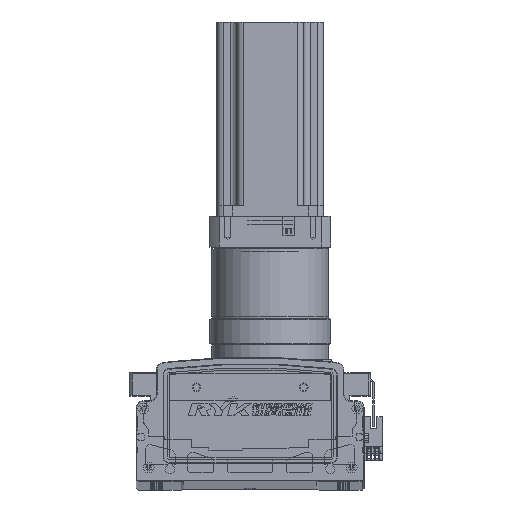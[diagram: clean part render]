
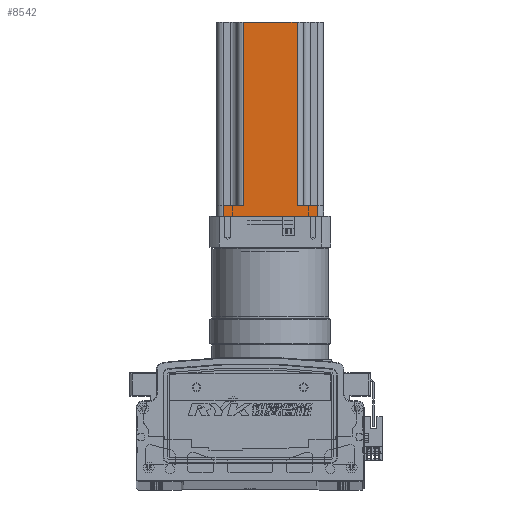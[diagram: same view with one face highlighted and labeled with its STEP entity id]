
A CAD part, top view. The second image highlights one B-rep face of the part: STEP entity #8542.
In plain terms, the highlighted planar face has unit normal (0, 0, 1) as drawn and (0, -1, 0) by its records, which use the part's own axes.
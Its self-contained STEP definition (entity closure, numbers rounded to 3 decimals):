
#8542 = ADVANCED_FACE ( 'NONE', ( #81081 ), #102049, .F. ) ;
#17299 = EDGE_LOOP ( 'NONE', ( #82838, #82874, #82886, #82844, #82961, #82892, #82914, #82920 ) ) ;
#29383 = EDGE_CURVE ( 'NONE', #80550, #80496, #62034, .T. ) ;
#29674 = EDGE_CURVE ( 'NONE', #80408, #80550, #62500, .T. ) ;
#29681 = EDGE_CURVE ( 'NONE', #80411, #80562, #62429, .T. ) ;
#29684 = EDGE_CURVE ( 'NONE', #80544, #80419, #62449, .T. ) ;
#29690 = EDGE_CURVE ( 'NONE', #80411, #80530, #62461, .T. ) ;
#29715 = EDGE_CURVE ( 'NONE', #80496, #80530, #62611, .T. ) ;
#29766 = EDGE_CURVE ( 'NONE', #80544, #80562, #58866, .T. ) ;
#29773 = EDGE_CURVE ( 'NONE', #80408, #80419, #58855, .T. ) ;
#58794 = VECTOR ( 'NONE', #62600, 1000. ) ;
#58855 = LINE ( 'NONE', #62640, #58884 ) ;
#58866 = LINE ( 'NONE', #62598, #58794 ) ;
#58884 = VECTOR ( 'NONE', #62610, 1000. ) ;
#61255 = DIRECTION ( 'NONE',  ( 1., 0., 0. ) ) ;
#61319 = CARTESIAN_POINT ( 'NONE',  ( -87.587, -40.37, 0. ) ) ;
#62034 = LINE ( 'NONE', #61319, #62036 ) ;
#62036 = VECTOR ( 'NONE', #61255, 1000. ) ;
#62089 = CARTESIAN_POINT ( 'NONE',  ( -7.587, -40.37, 8. ) ) ;
#62107 = CARTESIAN_POINT ( 'NONE',  ( -82.587, -40.37, 145. ) ) ;
#62115 = DIRECTION ( 'NONE',  ( 1., 0., 0. ) ) ;
#62119 = DIRECTION ( 'NONE',  ( 0., 0., -1. ) ) ;
#62126 = DIRECTION ( 'NONE',  ( 0., 0., 1. ) ) ;
#62134 = DIRECTION ( 'NONE',  ( 0., 0., -1. ) ) ;
#62155 = CARTESIAN_POINT ( 'NONE',  ( -27.587, -40.37, 145. ) ) ;
#62161 = CARTESIAN_POINT ( 'NONE',  ( -67.587, -40.37, 145. ) ) ;
#62296 = DIRECTION ( 'NONE',  ( 0., 0., 1. ) ) ;
#62342 = CARTESIAN_POINT ( 'NONE',  ( -12.587, -40.37, 145. ) ) ;
#62429 = LINE ( 'NONE', #62155, #62487 ) ;
#62449 = LINE ( 'NONE', #62161, #62465 ) ;
#62461 = LINE ( 'NONE', #62089, #62467 ) ;
#62465 = VECTOR ( 'NONE', #62134, 1000. ) ;
#62467 = VECTOR ( 'NONE', #62115, 1000. ) ;
#62487 = VECTOR ( 'NONE', #62126, 1000. ) ;
#62500 = LINE ( 'NONE', #62107, #62506 ) ;
#62506 = VECTOR ( 'NONE', #62119, 1000. ) ;
#62560 = VECTOR ( 'NONE', #62296, 1000. ) ;
#62598 = CARTESIAN_POINT ( 'NONE',  ( -87.587, -40.37, 145. ) ) ;
#62600 = DIRECTION ( 'NONE',  ( 1., 0., 0. ) ) ;
#62611 = LINE ( 'NONE', #62342, #62560 ) ;
#62610 = DIRECTION ( 'NONE',  ( 1., 0., 0. ) ) ;
#62640 = CARTESIAN_POINT ( 'NONE',  ( -87.587, -40.37, 8. ) ) ;
#80408 = VERTEX_POINT ( 'NONE', #106870 ) ;
#80411 = VERTEX_POINT ( 'NONE', #106895 ) ;
#80419 = VERTEX_POINT ( 'NONE', #106883 ) ;
#80496 = VERTEX_POINT ( 'NONE', #106917 ) ;
#80530 = VERTEX_POINT ( 'NONE', #106954 ) ;
#80544 = VERTEX_POINT ( 'NONE', #106956 ) ;
#80550 = VERTEX_POINT ( 'NONE', #106937 ) ;
#80562 = VERTEX_POINT ( 'NONE', #106975 ) ;
#81081 = FACE_OUTER_BOUND ( 'NONE', #17299, .T. ) ;
#82838 = ORIENTED_EDGE ( 'NONE', *, *, #29773, .F. ) ;
#82844 = ORIENTED_EDGE ( 'NONE', *, *, #29715, .T. ) ;
#82874 = ORIENTED_EDGE ( 'NONE', *, *, #29674, .T. ) ;
#82886 = ORIENTED_EDGE ( 'NONE', *, *, #29383, .T. ) ;
#82892 = ORIENTED_EDGE ( 'NONE', *, *, #29681, .T. ) ;
#82914 = ORIENTED_EDGE ( 'NONE', *, *, #29766, .F. ) ;
#82920 = ORIENTED_EDGE ( 'NONE', *, *, #29684, .T. ) ;
#82961 = ORIENTED_EDGE ( 'NONE', *, *, #29690, .F. ) ;
#102003 = DIRECTION ( 'NONE',  ( 0., 1., 0. ) ) ;
#102049 = PLANE ( 'NONE',  #104495 ) ;
#102051 = CARTESIAN_POINT ( 'NONE',  ( -87.587, -40.37, 145. ) ) ;
#102054 = DIRECTION ( 'NONE',  ( -1., 0., 0. ) ) ;
#104495 = AXIS2_PLACEMENT_3D ( 'NONE', #102051, #102003, #102054 ) ;
#106870 = CARTESIAN_POINT ( 'NONE',  ( -82.587, -40.37, 8. ) ) ;
#106883 = CARTESIAN_POINT ( 'NONE',  ( -67.587, -40.37, 8. ) ) ;
#106895 = CARTESIAN_POINT ( 'NONE',  ( -27.587, -40.37, 8. ) ) ;
#106917 = CARTESIAN_POINT ( 'NONE',  ( -12.587, -40.37, 0. ) ) ;
#106937 = CARTESIAN_POINT ( 'NONE',  ( -82.587, -40.37, 0. ) ) ;
#106954 = CARTESIAN_POINT ( 'NONE',  ( -12.587, -40.37, 8. ) ) ;
#106956 = CARTESIAN_POINT ( 'NONE',  ( -67.587, -40.37, 145. ) ) ;
#106975 = CARTESIAN_POINT ( 'NONE',  ( -27.587, -40.37, 145. ) ) ;
